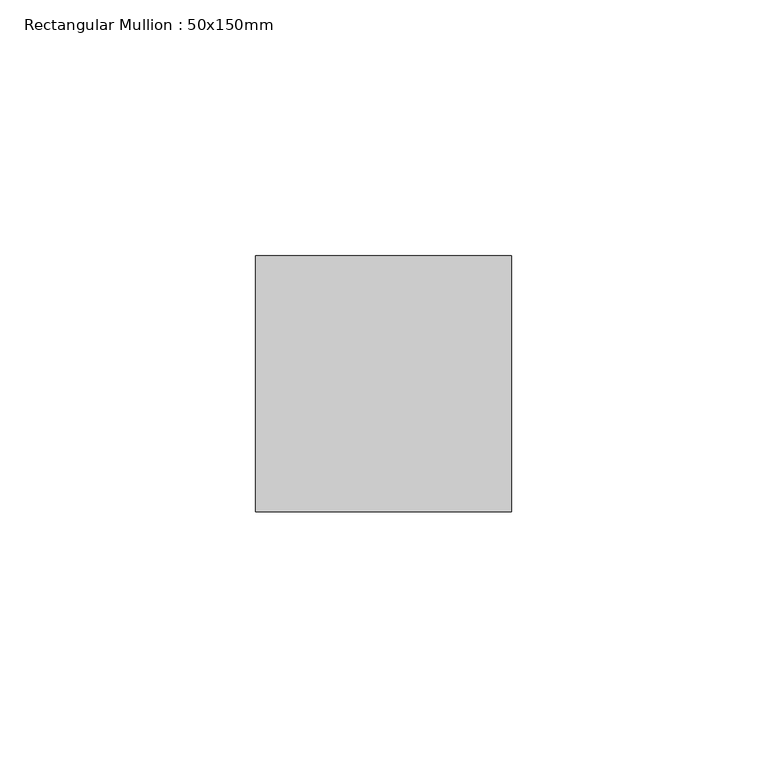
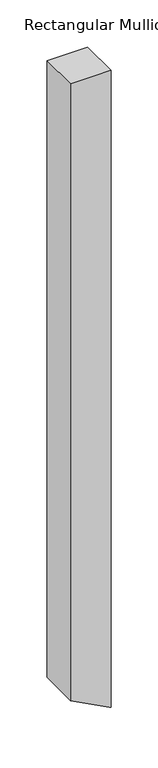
"""IFC4 building model written with IfcOpenShell, lengths in millimetres: member geometry, Rectangular Mullion : 50x150mm."""

from ifc_helpers import new_model, si_unit, frame, origin, place, context, project, spatial, polyline, outline, extrude, source, transform, mapped, element, save


def rectangular_mullion_50x150mm_1f74a128(model_context):
    return source(origin(), model_context, "Body", "SweptSolid", [
        extrude(outline(polyline([(0.0, 25.0), (0.0, -25.0), (-799.6894278, -25.0), (-825.1179489, 23.2946855), (-826.0158453, 25.0), (0.0, 25.0)])), frame((0.0, -25.0, 0.0), z_axis=(0.0, 1.0, 0.0), x_axis=(0.0, 0.0, 1.0)), (0.0, 0.0, 1.0), 50.0),
    ])


if __name__ == "__main__":
    model = new_model("IFC4")
    model_context = context("Model", 3, world=origin())
    ifc_project = project(units=[si_unit("LENGTHUNIT", "METRE", prefix="MILLI")], contexts=[model_context])
    site = spatial("IfcSite", under=ifc_project)
    building = spatial("IfcBuilding", under=site)
    placement = place(None, origin())
    rectangular_mullion_50x150mm_shape = rectangular_mullion_50x150mm_1f74a128(model_context)
    element("IfcMember", 1, ObjectType="Rectangular Mullion : 50x150mm", at=placement, inside=building, context=model_context, shape_type="MappedRepresentation", body=[
        mapped(rectangular_mullion_50x150mm_shape, transform((0.0, 0.0, 0.0), x_axis=(1.0, 0.0, 0.0), y_axis=(0.0, 1.0, 0.0), z_axis=(0.0, 0.0, 1.0))),
    ])
    save(model, "model.ifc")
